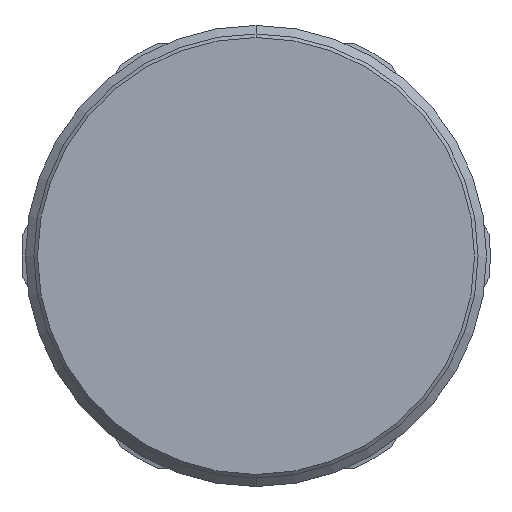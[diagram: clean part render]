
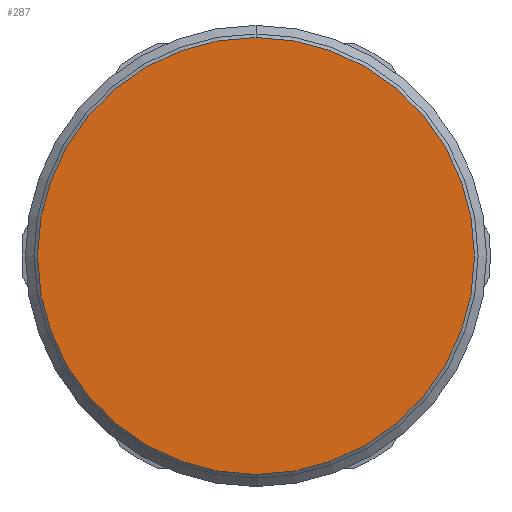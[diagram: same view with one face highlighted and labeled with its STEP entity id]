
A CAD part, front view. The second image highlights one B-rep face of the part: STEP entity #287.
In plain terms, the highlighted planar face has unit normal (0, -1, 0).
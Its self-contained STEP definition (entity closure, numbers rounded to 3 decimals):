
#262=CARTESIAN_POINT('',(0.0,-100.5,-30.8));
#263=VERTEX_POINT('',#262);
#264=CARTESIAN_POINT('',(0.0,-100.5,30.8));
#265=VERTEX_POINT('',#264);
#266=CARTESIAN_POINT('',(0.0,-100.5,0.0));
#267=DIRECTION('',(0.0,-1.0,0.0));
#268=DIRECTION('',(0.0,0.0,-1.0));
#269=AXIS2_PLACEMENT_3D('',#266,#267,#268);
#270=CIRCLE('',#269,30.8);
#271=EDGE_CURVE('no 2190',#263,#265,#270,.T.);
#272=ORIENTED_EDGE('',*,*,#271,.T.);
#273=CARTESIAN_POINT('',(0.0,-100.5,0.0));
#274=DIRECTION('',(0.0,-1.0,0.0));
#275=DIRECTION('',(0.0,0.0,-1.0));
#276=AXIS2_PLACEMENT_3D('',#273,#274,#275);
#277=CIRCLE('',#276,30.8);
#278=EDGE_CURVE('no 2194',#265,#263,#277,.T.);
#279=ORIENTED_EDGE('',*,*,#278,.T.);
#280=EDGE_LOOP('',(#272,#279));
#281=FACE_OUTER_BOUND('',#280,.T.);
#282=CARTESIAN_POINT('',(0.0,-100.5,0.0));
#283=DIRECTION('',(0.0,-1.0,0.0));
#284=DIRECTION('',(0.0,0.0,-1.0));
#285=AXIS2_PLACEMENT_3D('',#282,#283,#284);
#286=PLANE('',#285);
#287=ADVANCED_FACE('no 2181',(#281),#286,.T.);
